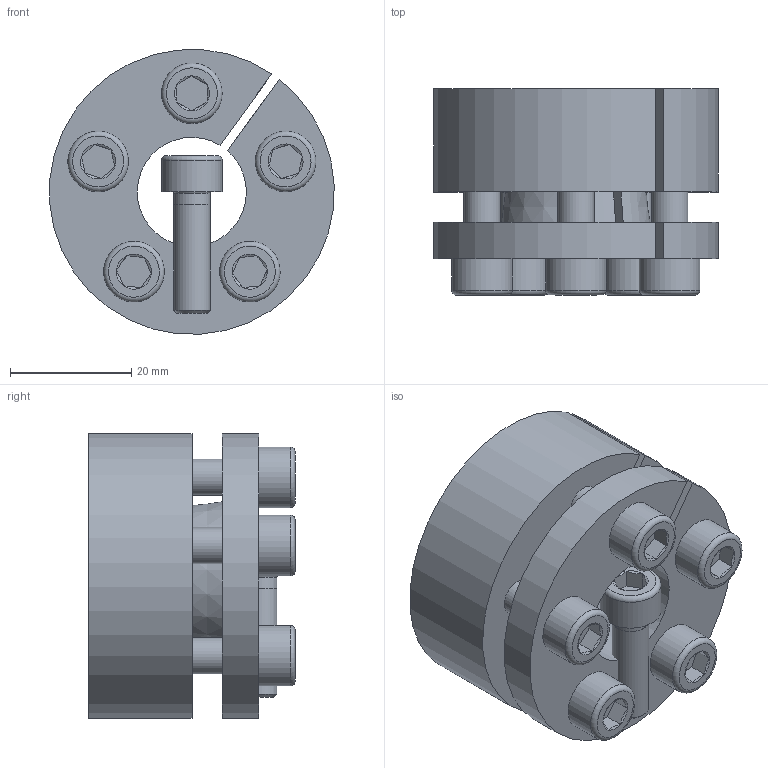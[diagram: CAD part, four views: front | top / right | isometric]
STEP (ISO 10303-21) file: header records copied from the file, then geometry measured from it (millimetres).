
FILE_DESCRIPTION( ( 'Unknown' ), '1' );
FILE_NAME( 'C:/Dokumente und Einstellungen/Sven/Desktop/homepage/cad - homepage/KBS13/KBS 13 - 18 x 47.stp', 'Unknown', ( 'Unknown' ), ( 'Unknown' ), 'XStep 1.0', 'Unknown', ' ' );
FILE_SCHEMA( ( 'automotive_design' ) );
Length unit declared in the file: millimetre
Products named in the file (3): Assem1; KBS 13 - 18 x 47; ISO EN DIN 4762 M6x20
Bounding box: 46.9 x 34 x 46.88 mm (x, y, z)
Volume: 68012.7 mm3; surface area: 30743.5 mm2
Topology: 8 solids, 8 shells, 194 faces, 398 edges, 244 vertices
Faces by surface type: plane 86, cylinder 50, cone 46, torus 12
Full cylindrical faces by diameter (mm): 5 x6, 6 x32, 10 x6
Entity records: 1552 total; most frequent: CARTESIAN_POINT 260, DIRECTION 230, ORIENTED_EDGE 170, AXIS2_PLACEMENT_3D 101, EDGE_LOOP 88, EDGE_CURVE 85, FACE_OUTER_BOUND 63, VERTEX_POINT 63
